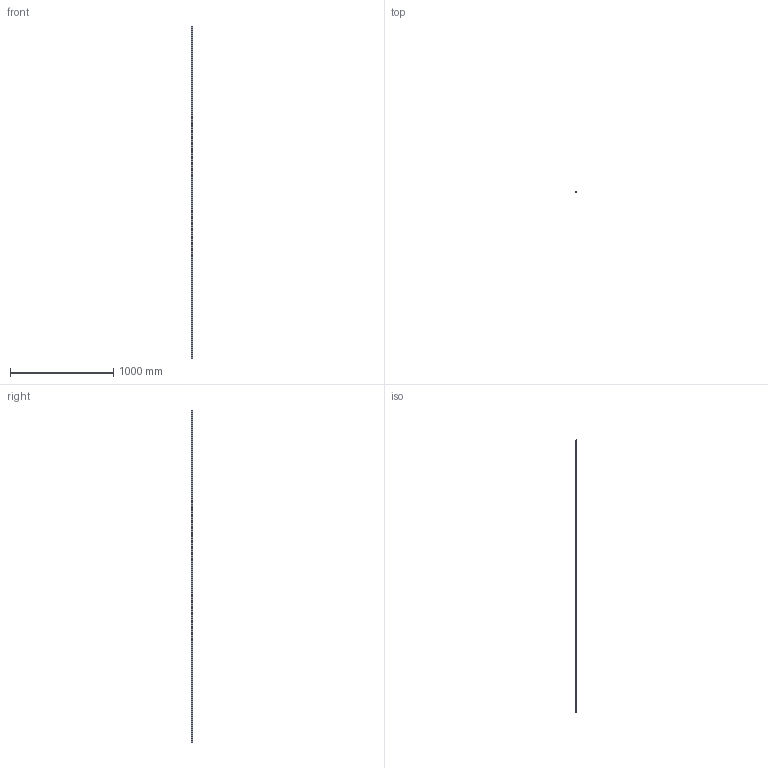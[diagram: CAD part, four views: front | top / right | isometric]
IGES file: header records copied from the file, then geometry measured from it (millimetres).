
Start section: SolidWorks IGES file using analytic representation for surfaces
Global section: file name: C:\Users\IanO\Desktop\L1016_v2\L1016.BL15_v2\L1016.BL15_v2_20190611_IGES\L1016.BL15-3220.igs; native system: SolidWorks 2017; preprocessor: SolidWorks 2017; author: IanO; date: 190612.123531; units: millimetre
Bounding box: 15 x 13 x 3220 mm (x, y, z)
Surface area: 196621.3 mm2 (no closed solid volume)
Topology: 0 solids, 0 shells, 296 faces, 7928 edges, 7928 vertices
Faces by surface type: revolution 220, bspline 76
